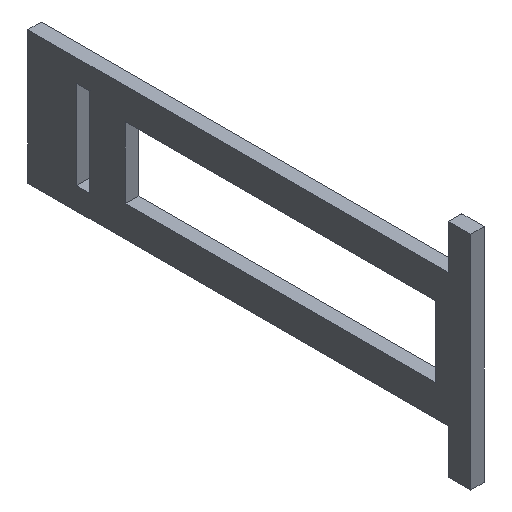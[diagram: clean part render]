
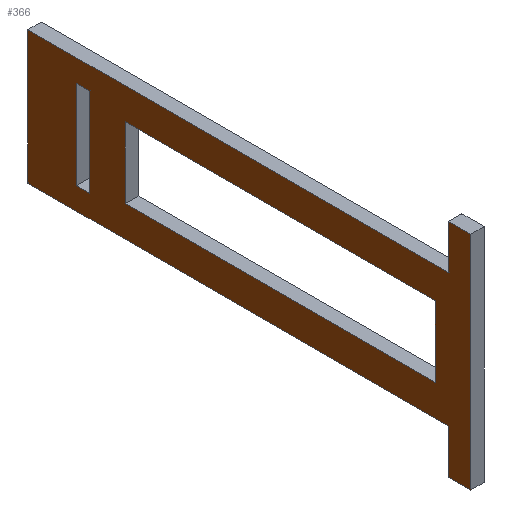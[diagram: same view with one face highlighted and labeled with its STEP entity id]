
A CAD part, isometric view. The second image highlights one B-rep face of the part: STEP entity #366.
In plain terms, the highlighted planar face has unit normal (-1, 0, 0).
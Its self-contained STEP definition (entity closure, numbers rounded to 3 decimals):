
#17=FACE_BOUND('',#57,.T.);
#18=FACE_BOUND('',#58,.T.);
#36=FACE_OUTER_BOUND('',#56,.T.);
#56=EDGE_LOOP('',(#315,#316,#317,#318,#319,#320,#321,#322));
#57=EDGE_LOOP('',(#323,#324,#325,#326));
#58=EDGE_LOOP('',(#327,#328,#329,#330));
#59=LINE('',#489,#107);
#63=LINE('',#497,#111);
#66=LINE('',#503,#114);
#69=LINE('',#508,#117);
#71=LINE('',#513,#119);
#75=LINE('',#521,#123);
#78=LINE('',#527,#126);
#81=LINE('',#532,#129);
#83=LINE('',#537,#131);
#87=LINE('',#545,#135);
#90=LINE('',#551,#138);
#93=LINE('',#557,#141);
#96=LINE('',#563,#144);
#99=LINE('',#569,#147);
#102=LINE('',#575,#150);
#105=LINE('',#580,#153);
#107=VECTOR('',#403,10.);
#111=VECTOR('',#409,10.);
#114=VECTOR('',#414,10.);
#117=VECTOR('',#419,10.);
#119=VECTOR('',#423,10.);
#123=VECTOR('',#429,10.);
#126=VECTOR('',#434,10.);
#129=VECTOR('',#439,10.);
#131=VECTOR('',#443,10.);
#135=VECTOR('',#449,10.);
#138=VECTOR('',#454,10.);
#141=VECTOR('',#459,10.);
#144=VECTOR('',#464,10.);
#147=VECTOR('',#469,10.);
#150=VECTOR('',#474,10.);
#153=VECTOR('',#479,10.);
#155=VERTEX_POINT('',#487);
#156=VERTEX_POINT('',#488);
#159=VERTEX_POINT('',#496);
#161=VERTEX_POINT('',#502);
#163=VERTEX_POINT('',#511);
#164=VERTEX_POINT('',#512);
#167=VERTEX_POINT('',#520);
#169=VERTEX_POINT('',#526);
#171=VERTEX_POINT('',#535);
#172=VERTEX_POINT('',#536);
#175=VERTEX_POINT('',#544);
#177=VERTEX_POINT('',#550);
#179=VERTEX_POINT('',#556);
#181=VERTEX_POINT('',#562);
#183=VERTEX_POINT('',#568);
#185=VERTEX_POINT('',#574);
#187=EDGE_CURVE('',#155,#156,#59,.T.);
#191=EDGE_CURVE('',#156,#159,#63,.T.);
#194=EDGE_CURVE('',#159,#161,#66,.T.);
#197=EDGE_CURVE('',#161,#155,#69,.T.);
#199=EDGE_CURVE('',#163,#164,#71,.T.);
#203=EDGE_CURVE('',#164,#167,#75,.T.);
#206=EDGE_CURVE('',#167,#169,#78,.T.);
#209=EDGE_CURVE('',#169,#163,#81,.T.);
#211=EDGE_CURVE('',#171,#172,#83,.T.);
#215=EDGE_CURVE('',#172,#175,#87,.T.);
#218=EDGE_CURVE('',#175,#177,#90,.T.);
#221=EDGE_CURVE('',#177,#179,#93,.T.);
#224=EDGE_CURVE('',#179,#181,#96,.T.);
#227=EDGE_CURVE('',#183,#181,#99,.T.);
#230=EDGE_CURVE('',#185,#183,#102,.T.);
#233=EDGE_CURVE('',#171,#185,#105,.T.);
#315=ORIENTED_EDGE('',*,*,#233,.F.);
#316=ORIENTED_EDGE('',*,*,#211,.T.);
#317=ORIENTED_EDGE('',*,*,#215,.T.);
#318=ORIENTED_EDGE('',*,*,#218,.T.);
#319=ORIENTED_EDGE('',*,*,#221,.T.);
#320=ORIENTED_EDGE('',*,*,#224,.T.);
#321=ORIENTED_EDGE('',*,*,#227,.F.);
#322=ORIENTED_EDGE('',*,*,#230,.F.);
#323=ORIENTED_EDGE('',*,*,#194,.T.);
#324=ORIENTED_EDGE('',*,*,#197,.T.);
#325=ORIENTED_EDGE('',*,*,#187,.T.);
#326=ORIENTED_EDGE('',*,*,#191,.T.);
#327=ORIENTED_EDGE('',*,*,#206,.T.);
#328=ORIENTED_EDGE('',*,*,#209,.T.);
#329=ORIENTED_EDGE('',*,*,#199,.T.);
#330=ORIENTED_EDGE('',*,*,#203,.T.);
#348=PLANE('',#398);
#366=ADVANCED_FACE('',(#36,#17,#18),#348,.F.);
#398=AXIS2_PLACEMENT_3D('',#583,#483,#484);
#403=DIRECTION('',(0.,-1.,0.));
#409=DIRECTION('',(0.,0.,-1.));
#414=DIRECTION('',(0.,1.,0.));
#419=DIRECTION('',(0.,0.,1.));
#423=DIRECTION('',(0.,0.,-1.));
#429=DIRECTION('',(0.,1.,0.));
#434=DIRECTION('',(0.,0.,1.));
#439=DIRECTION('',(0.,-1.,0.));
#443=DIRECTION('',(0.,0.,1.));
#449=DIRECTION('',(0.,1.,0.));
#454=DIRECTION('',(0.,0.,-1.));
#459=DIRECTION('',(0.,1.,0.));
#464=DIRECTION('',(0.,0.,-1.));
#469=DIRECTION('',(0.,1.,0.));
#474=DIRECTION('',(0.,0.,1.));
#479=DIRECTION('',(0.,1.,0.));
#483=DIRECTION('center_axis',(1.,0.,0.));
#484=DIRECTION('ref_axis',(0.,1.,0.));
#487=CARTESIAN_POINT('',(0.,78.,8.));
#488=CARTESIAN_POINT('',(0.,8.,8.));
#489=CARTESIAN_POINT('',(0.,29.,8.));
#496=CARTESIAN_POINT('',(0.,8.,-8.));
#497=CARTESIAN_POINT('',(0.,8.,-4.));
#502=CARTESIAN_POINT('',(0.,78.,-8.));
#503=CARTESIAN_POINT('',(0.,64.,-8.));
#508=CARTESIAN_POINT('',(0.,78.,4.));
#511=CARTESIAN_POINT('',(0.,86.,10.));
#512=CARTESIAN_POINT('',(0.,86.,-10.));
#513=CARTESIAN_POINT('',(0.,86.,-5.));
#520=CARTESIAN_POINT('',(0.,89.,-10.));
#521=CARTESIAN_POINT('',(0.,69.5,-10.));
#526=CARTESIAN_POINT('',(0.,89.,10.));
#527=CARTESIAN_POINT('',(0.,89.,5.));
#532=CARTESIAN_POINT('',(0.,68.,10.));
#535=CARTESIAN_POINT('',(0.,0.,-25.));
#536=CARTESIAN_POINT('',(0.,0.,25.));
#537=CARTESIAN_POINT('',(0.,0.,-25.));
#544=CARTESIAN_POINT('',(0.,5.,25.));
#545=CARTESIAN_POINT('',(0.,0.,25.));
#550=CARTESIAN_POINT('',(0.,5.,15.));
#551=CARTESIAN_POINT('',(0.,5.,25.));
#556=CARTESIAN_POINT('',(0.,100.,15.));
#557=CARTESIAN_POINT('',(0.,5.,15.));
#562=CARTESIAN_POINT('',(0.,100.,-15.));
#563=CARTESIAN_POINT('',(0.,100.,15.));
#568=CARTESIAN_POINT('',(0.,5.,-15.));
#569=CARTESIAN_POINT('',(0.,5.,-15.));
#574=CARTESIAN_POINT('',(0.,5.,-25.));
#575=CARTESIAN_POINT('',(0.,5.,-25.));
#580=CARTESIAN_POINT('',(0.,0.,-25.));
#583=CARTESIAN_POINT('Origin',(0.,50.,0.));
